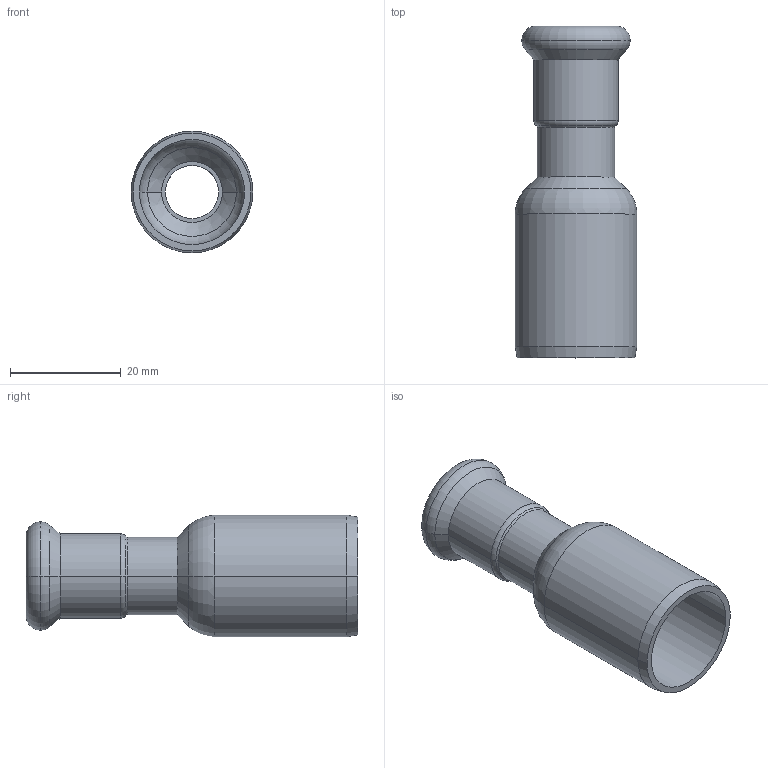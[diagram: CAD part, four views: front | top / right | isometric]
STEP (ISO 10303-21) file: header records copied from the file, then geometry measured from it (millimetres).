
FILE_DESCRIPTION(('CoCreate Modeling STEP Export'),'2;1');
FILE_NAME('C1407 12x22.stp','2014-11-07T14:27:15',(''),(''),'CoCreate Modeling STEP processor for AP214 (Solid Model)','CoCreate Modeling 17.00A 17-Jun-2010 (C) Parametric Technology GmbH','');
FILE_SCHEMA(('AUTOMOTIVE_DESIGN { 1 0 10303 214 1 1 1 1 }'));
Length unit declared in the file: millimetre
Products named in the file (2): C1407_12x22
Assembly tree (1 placements, depth 2):
  C1407_12x22
    C1407_12x22
Bounding box: 22 x 60 x 22 mm (x, y, z)
Volume: 5674.5 mm3; surface area: 6866.8 mm2
Topology: 1 solids, 1 shells, 41 faces, 83 edges, 47 vertices
Faces by surface type: cylinder 16, torus 10, cone 10, plane 5
Entity records: 908 total; most frequent: ORIENTED_EDGE 166, DIRECTION 140, CARTESIAN_POINT 130, EDGE_CURVE 83, AXIS2_PLACEMENT_3D 57, VERTEX_POINT 47, EDGE_LOOP 46, FACE_OUTER_BOUND 41
